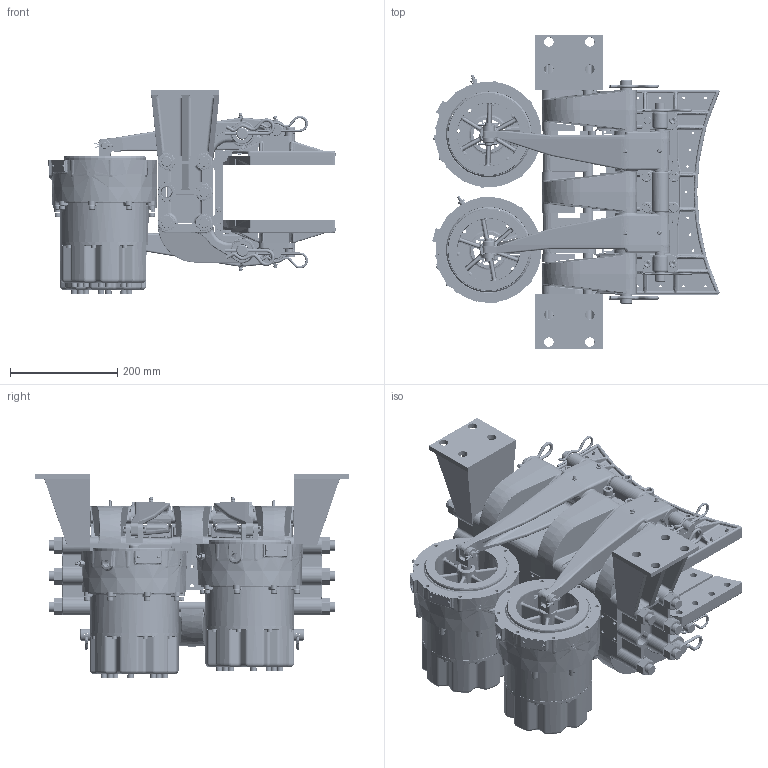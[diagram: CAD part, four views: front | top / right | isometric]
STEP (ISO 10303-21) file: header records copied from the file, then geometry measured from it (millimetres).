
FILE_DESCRIPTION (( 'STEP AP214' ), '1' );
FILE_NAME ('5026-SHW-LH.STEP', '2019-02-22T19:27:53', ( '' ), ( '' ), 'SwSTEP 2.0', 'SolidWorks 2017', '' );
FILE_SCHEMA (( 'AUTOMOTIVE_DESIGN' ));
Length unit declared in the file: inch
Products named in the file (1): 5026-SHW-LH
Bounding box: 534.62 x 584.2 x 380.33 mm (x, y, z)
Surface area: 2351945.9 mm2 (no closed solid volume)
Topology: 0 solids, 282 shells, 4978 faces, 16029 edges, 10874 vertices
Faces by surface type: cylinder 1511, plane 1363, bspline 851, cone 625, torus 536, sphere 92
Entity records: 297181 total; most frequent: CARTESIAN_POINT 103844, DIRECTION 25956, ORIENTED_EDGE 25349, EDGE_CURVE 15887, VERTEX_POINT 10866, AXIS2_PLACEMENT_3D 10467, CIRCLE 6339, EDGE_LOOP 5668
